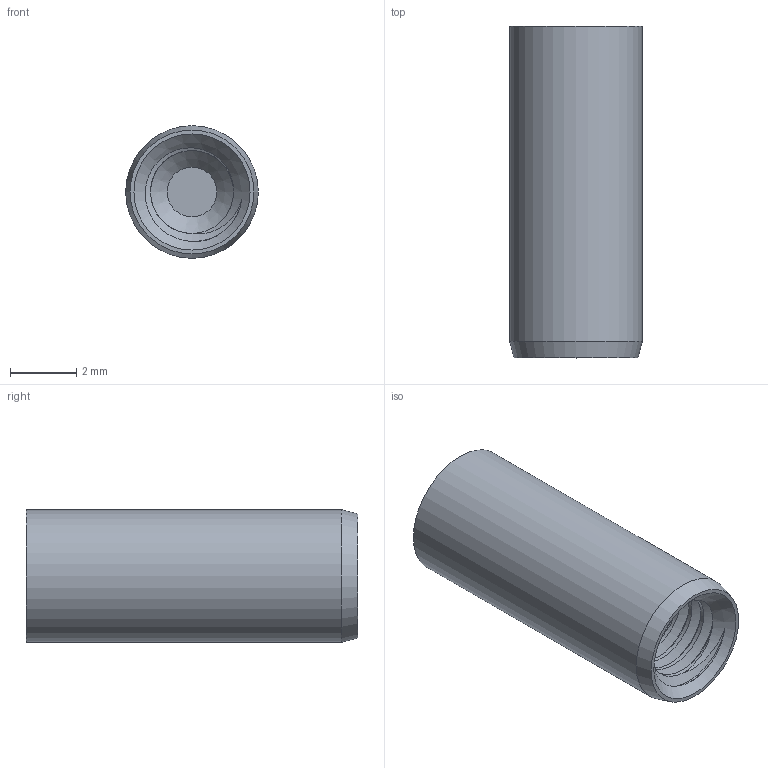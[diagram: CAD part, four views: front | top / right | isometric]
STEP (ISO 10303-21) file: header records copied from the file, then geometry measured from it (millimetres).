
FILE_DESCRIPTION (( 'STEP AP214' ), '1' );
FILE_NAME ('PET-4.STEP', '2018-10-09T18:03:14', ( '' ), ( '' ), 'SwSTEP 2.0', 'SolidWorks 2017', '' );
FILE_SCHEMA (( 'AUTOMOTIVE_DESIGN' ));
Length unit declared in the file: millimetre
Products named in the file (1): PET-4
Bounding box: 4 x 10 x 4 mm (x, y, z)
Volume: 80.1 mm3; surface area: 243 mm2
Topology: 1 solids, 1 shells, 107 faces, 292 edges, 194 vertices
Faces by surface type: plane 67, bspline 25, cylinder 12, cone 3
Full cylindrical faces by diameter (mm): 2.5 x11, 4 x1
Entity records: 5028 total; most frequent: CARTESIAN_POINT 2807, ORIENTED_EDGE 510, DIRECTION 333, EDGE_CURVE 255, LINE 173, VECTOR 173, VERTEX_POINT 172, EDGE_LOOP 109
